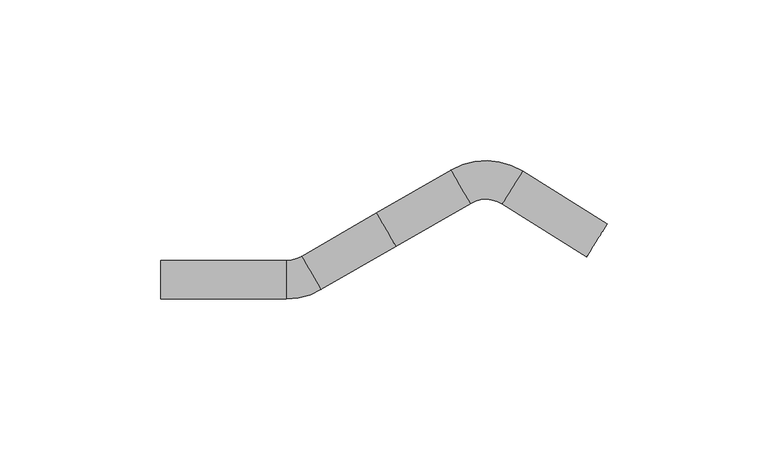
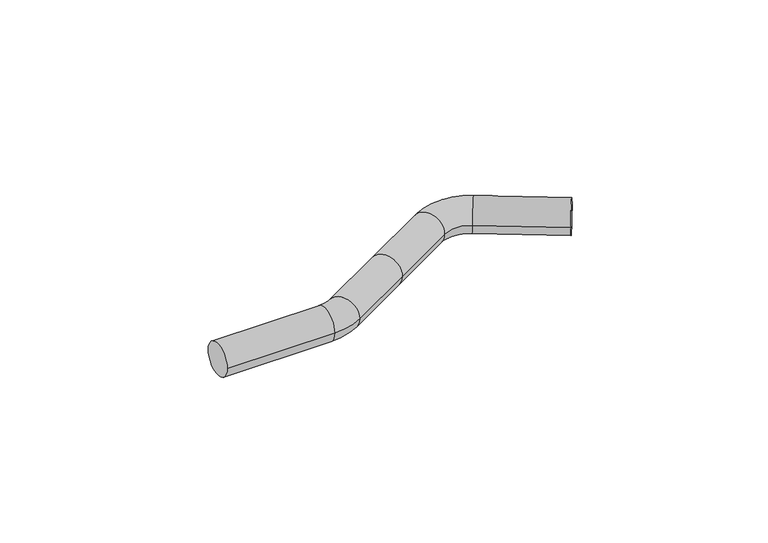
"""IFC4 building model written with IfcOpenShell, lengths in millimetres: pipe fitting geometry, KAN-therm Steel obejście : KAN-therm Steel obejście."""

from ifc_helpers import new_model, si_unit, point, frame, origin, place, context, project, spatial, circle_curve, ellipse_curve, trimmed, source, transform, mapped, element, save
from ifc_brep_helpers import plane_surface, cylinder_surface, revolved_surface, advanced_brep


def pipe_fitting_259ccd33(model_context):
    return source(origin(), model_context, "Body", "AdvancedBrep", [
        advanced_brep(
        [(0.0, -6.0, 0.0), (0.0, 6.0, 0.0), (39.0, -6.0, 0.0), (39.0, 6.0, 0.0), (43.7508099, 7.2732263, 0.0), (49.7518329, -3.1184879, 0.0), (112.4002594, 33.7286612, 0.0), (90.2499998, 34.1195462, 0.0), (96.2499999, 23.7272414, 0.0), (106.0373239, 23.5545248, 0.0), (132.3192079, 7.1120792, 0.0), (138.6837228, 17.2852277, 0.0), (72.9999999, 10.3038476, 0.0), (67.0, 20.6961525, 0.0)],
        [
            (0, 1, circle_curve(frame((0.0, 0.0, 0.0), z_axis=(-1.0, 0.0, 0.0), x_axis=(0.0, 1.0, 0.0)), 6.0)),
            (1, 0, circle_curve(frame((0.0, 0.0, 0.0), z_axis=(-1.0, 0.0, 0.0), x_axis=(0.0, 1.0, 0.0)), 6.0)),
            (0, 2),
            (2, 3, circle_curve(frame((39.0, 0.0, 0.0), z_axis=(-1.0, 0.0, 0.0), x_axis=(0.0, 1.0, 0.0)), 6.0)),
            (3, 1),
            (3, 2, circle_curve(frame((39.0, 0.0, 0.0), z_axis=(-1.0, 0.0, 0.0), x_axis=(0.0, 1.0, 0.0)), 6.0)),
            (4, 3, circle_curve(frame((39.0, 15.5, 0.0), z_axis=(0.0, 0.0, -1.0), x_axis=(0.0, -1.0, 0.0)), 9.5)),
            (2, 5, circle_curve(frame((39.0, 15.5, 0.0), z_axis=(0.0, 0.0, 1.0), x_axis=(0.0, -1.0, 0.0)), 21.5)),
            (5, 4, circle_curve(frame((46.7513214, 2.0773692, 0.0), z_axis=(-0.8659761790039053, -0.5000852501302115, 0.0), x_axis=(-0.5000852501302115, 0.8659761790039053, 0.0)), 6.0)),
            (4, 5, circle_curve(frame((46.7513214, 2.0773692, 0.0), z_axis=(-0.865976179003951, -0.5000852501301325, 0.0), x_axis=(-0.5000852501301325, 0.865976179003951, 0.0)), 6.0)),
            (6, 7, circle_curve(frame((101.0, 15.5, 0.0), z_axis=(0.0, 0.0, 1.0), x_axis=(-0.5000000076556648, 0.8660253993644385, 0.0)), 21.5000001)),
            (7, 8, circle_curve(frame((93.2499999, 28.9233938, 0.0), z_axis=(0.8660253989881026, 0.5000000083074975, 0.0), x_axis=(-0.5000000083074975, 0.8660253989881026, 0.0)), 6.0)),
            (8, 9, circle_curve(frame((101.0, 15.5, 0.0), z_axis=(0.0, 0.0, -1.0), x_axis=(-0.5000000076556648, 0.8660253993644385, 0.0)), 9.5000001)),
            (9, 6, circle_curve(frame((109.2187917, 28.641593, 0.0), z_axis=(-0.8478447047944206, 0.5302446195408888, 0.0), x_axis=(0.5302446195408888, 0.8478447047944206, 0.0)), 6.0)),
            (8, 7, circle_curve(frame((93.2499999, 28.9233938, 0.0), z_axis=(0.8660253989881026, 0.5000000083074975, 0.0), x_axis=(-0.5000000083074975, 0.8660253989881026, 0.0)), 6.0)),
            (6, 9, circle_curve(frame((109.2187917, 28.641593, 0.0), z_axis=(-0.8478447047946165, 0.5302446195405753, 0.0), x_axis=(0.5302446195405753, 0.8478447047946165, 0.0)), 6.0)),
            (10, 11, circle_curve(frame((135.5014653, 12.1986535, 0.0), z_axis=(0.8477623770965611, -0.5303762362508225, 0.0), x_axis=(0.5303762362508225, 0.8477623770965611, 0.0)), 6.0)),
            (11, 10, circle_curve(frame((135.5014653, 12.1986535, 0.0), z_axis=(0.8477623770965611, -0.5303762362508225, 0.0), x_axis=(0.5303762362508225, 0.8477623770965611, 0.0)), 6.0)),
            (9, 10),
            (11, 6),
            (5, 12),
            (12, 13, circle_curve(frame((69.9999999, 15.5, 0.0), z_axis=(-0.8660254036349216, -0.5000000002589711, 0.0), x_axis=(-0.5000000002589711, 0.8660254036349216, 0.0)), 6.0)),
            (13, 4),
            (13, 12, circle_curve(frame((70.0, 15.5, 0.0), z_axis=(-0.8660254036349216, -0.5000000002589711, 0.0), x_axis=(-0.5000000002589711, 0.8660254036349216, 0.0)), 6.0)),
            (12, 8),
            (7, 13),
        ],
        [
            plane_surface(frame((0.0, 0.0, 0.0), z_axis=(-1.0, 7.526701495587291e-10, 0.0), x_axis=(0.0, 0.0, 1.0))),
            cylinder_surface(frame((0.0, 0.0, 0.0), z_axis=(-1.0, 0.0, 0.0), x_axis=(0.0, 1.0, 0.0)), 6.0),
            revolved_surface(trimmed(ellipse_curve(frame((39.0, 0.0, 0.0), z_axis=(-1.0, -7.526731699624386e-10, 0.0), x_axis=(-7.526731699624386e-10, 1.0, 0.0)), 6.0, 6.0), [point((39.0, -6.0, 0.0))], [point((39.0, 6.0, 0.0))], True, "CARTESIAN"), (39.0, 15.5, 0.0), (0.0, 0.0, 1.0)),
            revolved_surface(trimmed(ellipse_curve(frame((39.0, 0.0, 0.0), z_axis=(-1.0, -7.526731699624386e-10, 0.0), x_axis=(-7.526731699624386e-10, 1.0, 0.0)), 6.0, 6.0), [point((39.0, 6.0, 0.0))], [point((39.0, -6.0, 0.0))], True, "CARTESIAN"), (39.0, 15.5, 0.0), (0.0, 0.0, 1.0)),
            revolved_surface(trimmed(ellipse_curve(frame((93.2499999, 28.9233938, 0.0), z_axis=(-0.8660253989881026, -0.5000000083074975, 0.0), x_axis=(-0.5000000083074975, 0.8660253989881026, 0.0)), 6.0, 6.0), [point((96.2499999, 23.7272414, 0.0))], [point((90.2499998, 34.1195462, 0.0))], True, "CARTESIAN"), (101.0, 15.5, 0.0), (0.0, 0.0, -1.0)),
            revolved_surface(trimmed(ellipse_curve(frame((93.2499999, 28.9233938, 0.0), z_axis=(-0.8660253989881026, -0.5000000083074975, 0.0), x_axis=(-0.5000000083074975, 0.8660253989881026, 0.0)), 6.0, 6.0), [point((90.2499998, 34.1195462, 0.0))], [point((96.2499999, 23.7272414, 0.0))], True, "CARTESIAN"), (101.0, 15.5, 0.0), (0.0, 0.0, -1.0)),
            plane_surface(frame((135.5014653, 12.1986534, 0.0), z_axis=(0.8477623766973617, -0.5303762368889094, 0.0), x_axis=(0.0, 0.0, 1.0))),
            cylinder_surface(frame((109.2187917, 28.641593, 0.0), z_axis=(-0.8477623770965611, 0.5303762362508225, 0.0), x_axis=(0.5303762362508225, 0.8477623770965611, 0.0)), 6.0),
            cylinder_surface(frame((46.7513214, 2.0773692, 0.0), z_axis=(-0.8660254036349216, -0.5000000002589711, 0.0), x_axis=(-0.5000000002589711, 0.8660254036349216, 0.0)), 6.0),
            cylinder_surface(frame((70.0, 15.5, 0.0), z_axis=(-0.8660254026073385, -0.5000000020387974, 0.0), x_axis=(-0.5000000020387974, 0.8660254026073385, 0.0)), 6.0),
        ],
        [
            (0, [[1, 2]]),
            (1, [[-1, 3, 4, 5]]),
            (1, [[-2, -5, 6, -3]]),
            (2, [[7, -4, 8, 9]]),
            (3, [[-8, -6, -7, 10]]),
            (4, [[11, 12, 13, 14]]),
            (5, [[-13, 15, -11, 16]]),
            (6, [[17, 18]]),
            (7, [[-14, 19, -18, 20]]),
            (7, [[-16, -20, -17, -19]]),
            (8, [[-9, 21, 22, 23]]),
            (8, [[-10, -23, 24, -21]]),
            (9, [[-22, 25, -12, 26]]),
            (9, [[-24, -26, -15, -25]]),
        ],
    ),
    ])


if __name__ == "__main__":
    model = new_model("IFC4")
    model_context = context("Model", 3, world=origin())
    ifc_project = project(units=[si_unit("LENGTHUNIT", "METRE", prefix="MILLI")], contexts=[model_context])
    site = spatial("IfcSite", under=ifc_project)
    building = spatial("IfcBuilding", under=site)
    placement = place(None, origin())
    pipe_fitting_shape = pipe_fitting_259ccd33(model_context)
    element("IfcPipeFitting", 1, ObjectType="KAN-therm Steel obejście : KAN-therm Steel obejście", at=placement, inside=building, context=model_context, shape_type="MappedRepresentation", body=[
        mapped(pipe_fitting_shape, transform((0.0, 0.0, 0.0), x_axis=(1.0, 0.0, 0.0), y_axis=(0.0, 1.0, 0.0), z_axis=(0.0, 0.0, 1.0))),
    ])
    save(model, "model.ifc")
